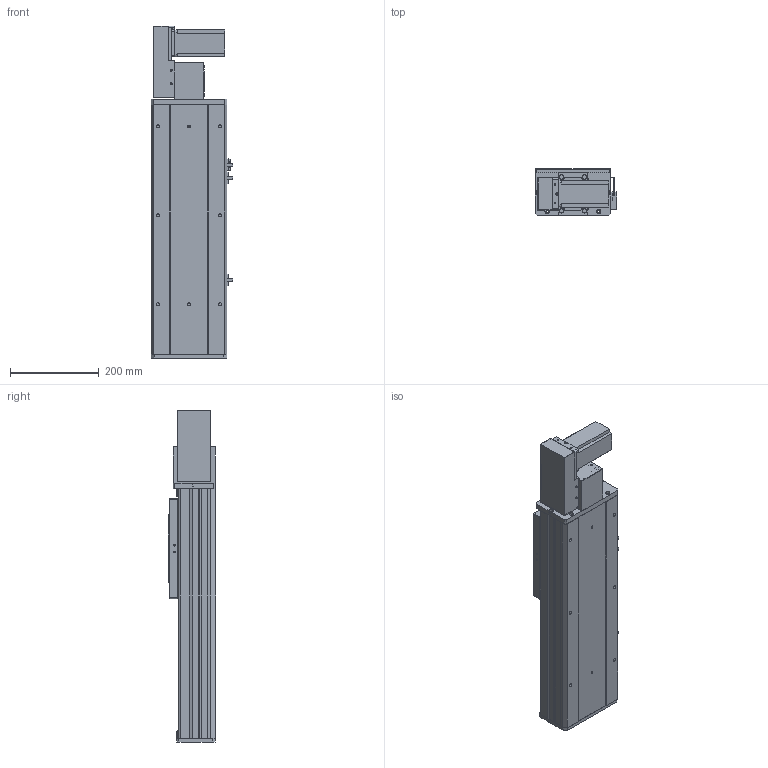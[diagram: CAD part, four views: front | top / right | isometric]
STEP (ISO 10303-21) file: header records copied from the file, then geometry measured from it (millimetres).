
FILE_DESCRIPTION (( 'STEP AP203' ), '1' );
FILE_NAME ('Y170CB-D105-S250-BL-P400W.STEP', '2020-02-20T01:02:43', ( '微软用户' ), ( '微软中国' ), 'SwSTEP 2.0', 'SolidWorks 2017', '' );
FILE_SCHEMA (( 'CONFIG_CONTROL_DESIGN' ));
Length unit declared in the file: millimetre
Products named in the file (18): Y170CB-D105-S250-BL-P400W; 70C--詩湍揤踡え-; B-源倛裔啣; 70CB--耜裔; 17B-耜蚾蟀諉啣----; 70C-雄赽釱-奻-; 0B-萇儂楊擘啣; 0C--雄赽釱俋欶-170; san松下电机400不带刹车----; 70CB-詩湍--; Y70俋欶BR----; Y100-135俋离換覜ん--; Y170CB-陔俋离換覜結え---; 70CB-掛极-; 70B喘謫眊----; --70CB --喘謫眊楊擘啣-; Y1埴倛裔; 70CB-耜裔啣-
Assembly tree (21 placements, depth 2):
  Y170CB-D105-S250-BL-P400W
    B-源倛裔啣
    17B-耜蚾蟀諉啣----
    0B-萇儂楊擘啣
    san松下电机400不带刹车----
    Y70俋欶BR----
    70CB-掛极-
    --70CB --喘謫眊楊擘啣-
    70CB-耜裔啣-  x2
    70C--詩湍揤踡え-  x2
    70CB--耜裔
    70C-雄赽釱-奻-
    0C--雄赽釱俋欶-170
    70CB-詩湍--
    Y100-135俋离換覜ん--  x3
    Y170CB-陔俋离換覜結え---
    70B喘謫眊----
    Y1埴倛裔
Bounding box: 183.5 x 107 x 747 mm (x, y, z)
Volume: 3584962.3 mm3; surface area: 1265839.8 mm2
Topology: 21 solids, 21 shells, 975 faces, 2597 edges, 1722 vertices
Faces by surface type: cylinder 487, plane 464, cone 24
Entity records: 30860 total; most frequent: CARTESIAN_POINT 5616, DIRECTION 5014, ORIENTED_EDGE 4676, EDGE_CURVE 2338, AXIS2_PLACEMENT_3D 1824, VERTEX_POINT 1552, VECTOR 1366, LINE 1366
